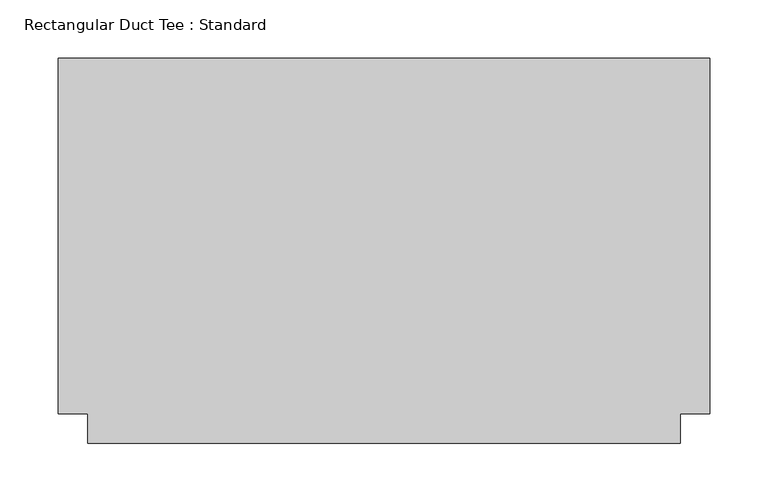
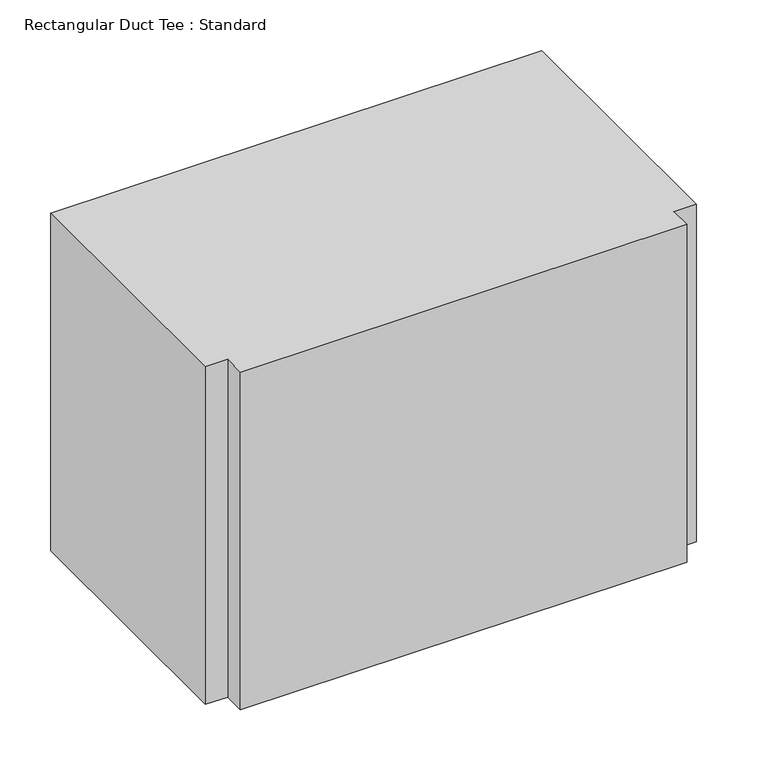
"""IFC4 building model written with IfcOpenShell, lengths in millimetres: duct fitting geometry, Rectangular Duct Tee : Standard."""

from ifc_helpers import new_model, si_unit, frame, origin, place, context, project, spatial, polyline, outline, extrude, source, transform, mapped, element, save


def rectangular_duct_tee_standard_a3fae06d(model_context):
    return source(origin(), model_context, "Body", "SweptSolid", [
        extrude(outline(polyline([(-279.4, -152.4), (-279.4, 152.4), (279.4, 152.4), (279.4, -152.4), (254.0, -152.4), (254.0, -177.8), (-254.0, -177.8), (-254.0, -152.4), (-279.4, -152.4)])), frame((0.0, 0.0, -203.2), z_axis=(0.0, 0.0, 1.0), x_axis=(1.0, 0.0, 0.0)), (0.0, 0.0, 1.0), 406.4),
        extrude(outline(polyline([(-279.4, 152.4), (279.4, 152.4), (279.4, -152.4), (254.0, -152.4), (254.0, -177.8), (-254.0, -177.8), (-254.0, -152.4), (-279.4, -152.4), (-279.4, 152.4)])), frame((0.0, 0.0, -203.2), z_axis=(0.0, 0.0, 1.0), x_axis=(1.0, 0.0, 0.0)), (0.0, 0.0, 1.0), 406.4),
        extrude(outline(polyline([(-279.4, -152.4), (-279.4, 152.4), (279.4, 152.4), (279.4, -152.4), (254.0, -152.4), (254.0, -177.8), (-254.0, -177.8), (-254.0, -152.4), (-279.4, -152.4)])), frame((0.0, 0.0, -203.2), z_axis=(0.0, 0.0, 1.0), x_axis=(1.0, 0.0, 0.0)), (0.0, 0.0, 1.0), 406.4),
    ])


if __name__ == "__main__":
    model = new_model("IFC4")
    model_context = context("Model", 3, world=origin())
    ifc_project = project(units=[si_unit("LENGTHUNIT", "METRE", prefix="MILLI")], contexts=[model_context])
    site = spatial("IfcSite", under=ifc_project)
    building = spatial("IfcBuilding", under=site)
    placement = place(None, origin())
    rectangular_duct_tee_standard_shape = rectangular_duct_tee_standard_a3fae06d(model_context)
    element("IfcDuctFitting", 1, ObjectType="Rectangular Duct Tee : Standard", at=placement, inside=building, context=model_context, shape_type="MappedRepresentation", body=[
        mapped(rectangular_duct_tee_standard_shape, transform((0.0, 0.0, 0.0), x_axis=(1.0, 0.0, 0.0), y_axis=(0.0, 1.0, 0.0), z_axis=(0.0, 0.0, 1.0))),
    ])
    save(model, "model.ifc")
